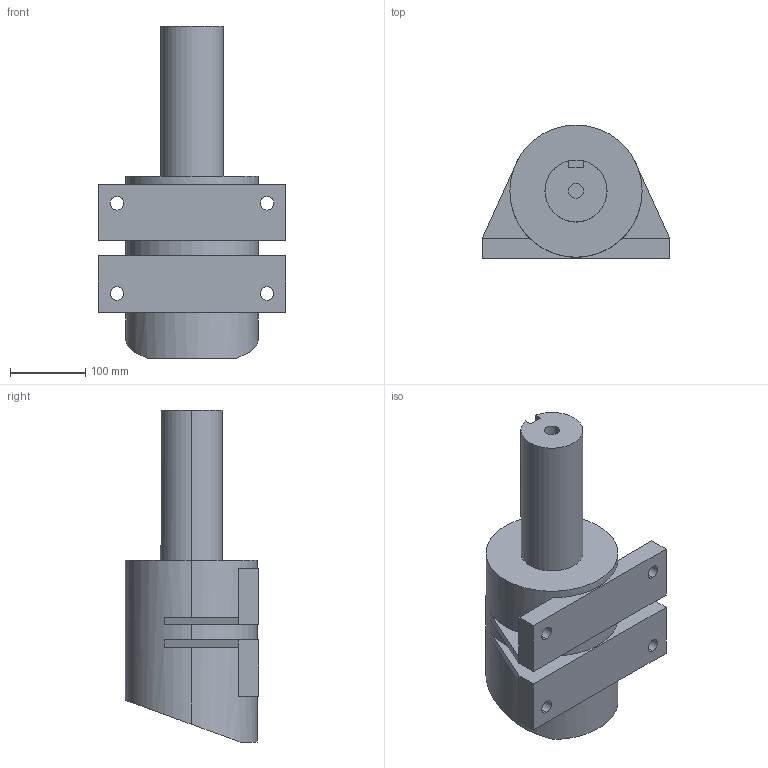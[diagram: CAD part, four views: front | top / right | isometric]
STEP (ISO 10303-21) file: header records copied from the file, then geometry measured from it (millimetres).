
FILE_DESCRIPTION((''),'2;1');
FILE_NAME('75_X2_578B59395934_X0_-_X2_7E_1','2021-03-02T20:27:49',('Eric.Chung'),(''),'CREO PARAMETRIC BY PTC INC, 2018020','CREO PARAMETRIC BY PTC INC, 2018020','');
FILE_SCHEMA(('CONFIG_CONTROL_DESIGN'));
Length unit declared in the file: millimetre
Products named in the file (1): 75_X2_578B59395934_X0_-_X2_7E_1
Bounding box: 250 x 178 x 442 mm (x, y, z)
Volume: 7078540.1 mm3; surface area: 308756.8 mm2
Topology: 1 solids, 1 shells, 47 faces, 126 edges, 83 vertices
Faces by surface type: plane 31, cylinder 16
Entity records: 1554 total; most frequent: CARTESIAN_POINT 283, DIRECTION 261, ORIENTED_EDGE 252, EDGE_CURVE 126, AXIS2_PLACEMENT_3D 92, VERTEX_POINT 83, VECTOR 77, LINE 77
